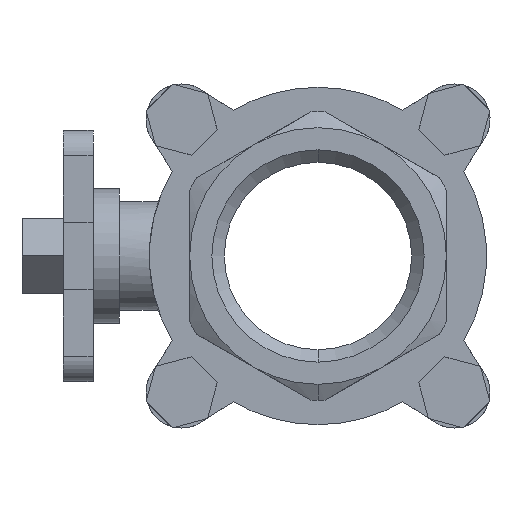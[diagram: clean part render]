
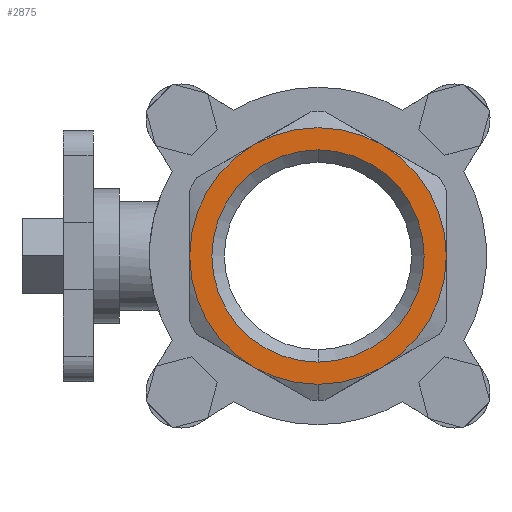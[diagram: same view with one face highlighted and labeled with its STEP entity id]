
A CAD part, left-side view. The second image highlights one B-rep face of the part: STEP entity #2875.
In plain terms, the highlighted planar face has unit normal (-1, 0, 0).
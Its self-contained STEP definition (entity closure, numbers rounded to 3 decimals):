
#1 = EDGE_LOOP ( 'NONE', ( #7816, #8437, #8639, #8641, #8653, #600, #471 ) ) ;
#3 = AXIS2_PLACEMENT_3D ( 'NONE', #7074, #3087, #7754 ) ;
#117 = DIRECTION ( 'NONE',  ( 0., 0., 1. ) ) ;
#135 = CIRCLE ( 'NONE', #5687, 34.25 ) ;
#471 = ORIENTED_EDGE ( 'NONE', *, *, #4531, .T. ) ;
#600 = ORIENTED_EDGE ( 'NONE', *, *, #8406, .T. ) ;
#675 = DIRECTION ( 'NONE',  ( -1., 0., 0. ) ) ;
#746 = AXIS2_PLACEMENT_3D ( 'NONE', #7809, #8476, #4480 ) ;
#955 = CIRCLE ( 'NONE', #1039, 34.25 ) ;
#1039 = AXIS2_PLACEMENT_3D ( 'NONE', #4856, #675, #5549 ) ;
#1052 = AXIS2_PLACEMENT_3D ( 'NONE', #7338, #3338, #8001 ) ;
#1214 = VERTEX_POINT ( 'NONE', #4510 ) ;
#1637 = CARTESIAN_POINT ( 'NONE',  ( -59., 0., 0. ) ) ;
#1911 = FACE_BOUND ( 'NONE', #7294, .T. ) ;
#1931 = EDGE_CURVE ( 'NONE', #8635, #8394, #4821, .T. ) ;
#2150 = AXIS2_PLACEMENT_3D ( 'NONE', #1637, #6429, #2378 ) ;
#2348 = CARTESIAN_POINT ( 'NONE',  ( -59., 0., 0. ) ) ;
#2378 = DIRECTION ( 'NONE',  ( 0., 0., 1. ) ) ;
#2431 = CARTESIAN_POINT ( 'NONE',  ( -59., 0., 0. ) ) ;
#2454 = VERTEX_POINT ( 'NONE', #6149 ) ;
#2566 = CIRCLE ( 'NONE', #3, 34.25 ) ;
#2615 = CARTESIAN_POINT ( 'NONE',  ( -59., 34.25, 0. ) ) ;
#2632 = AXIS2_PLACEMENT_3D ( 'NONE', #3137, #7798, #3784 ) ;
#2780 = VERTEX_POINT ( 'NONE', #6358 ) ;
#2875 = ADVANCED_FACE ( 'NONE', ( #1911, #7331 ), #3148, .F. ) ;
#2955 = CIRCLE ( 'NONE', #1052, 28.325 ) ;
#2975 = EDGE_CURVE ( 'NONE', #8569, #6113, #2955, .T. ) ;
#3025 = CIRCLE ( 'NONE', #3444, 34.25 ) ;
#3052 = CARTESIAN_POINT ( 'NONE',  ( -59., 0., 0. ) ) ;
#3080 = DIRECTION ( 'NONE',  ( 0., 0., 1. ) ) ;
#3087 = DIRECTION ( 'NONE',  ( -1., 0., 0. ) ) ;
#3137 = CARTESIAN_POINT ( 'NONE',  ( -59., 0., 0. ) ) ;
#3148 = PLANE ( 'NONE',  #746 ) ;
#3157 = DIRECTION ( 'NONE',  ( 0., 0., 1. ) ) ;
#3338 = DIRECTION ( 'NONE',  ( -1., 0., 0. ) ) ;
#3444 = AXIS2_PLACEMENT_3D ( 'NONE', #8379, #4385, #117 ) ;
#3696 = DIRECTION ( 'NONE',  ( 0., 0., 1. ) ) ;
#3764 = CARTESIAN_POINT ( 'NONE',  ( -59., 17.125, -29.661 ) ) ;
#3784 = DIRECTION ( 'NONE',  ( 0., 0., 1. ) ) ;
#3892 = AXIS2_PLACEMENT_3D ( 'NONE', #2348, #7066, #3080 ) ;
#4385 = DIRECTION ( 'NONE',  ( -1., 0., 0. ) ) ;
#4480 = DIRECTION ( 'NONE',  ( 0., 0., -1. ) ) ;
#4510 = CARTESIAN_POINT ( 'NONE',  ( -59., -34.25, 0. ) ) ;
#4531 = EDGE_CURVE ( 'NONE', #2780, #2454, #2566, .T. ) ;
#4662 = CIRCLE ( 'NONE', #2632, 34.25 ) ;
#4821 = CIRCLE ( 'NONE', #8152, 34.25 ) ;
#4856 = CARTESIAN_POINT ( 'NONE',  ( -59., 0., 0. ) ) ;
#4857 = CIRCLE ( 'NONE', #2150, 28.325 ) ;
#5275 = CARTESIAN_POINT ( 'NONE',  ( -59., 0., -28.325 ) ) ;
#5549 = DIRECTION ( 'NONE',  ( 0., 0., 1. ) ) ;
#5687 = AXIS2_PLACEMENT_3D ( 'NONE', #2431, #7145, #3157 ) ;
#5692 = ORIENTED_EDGE ( 'NONE', *, *, #2975, .F. ) ;
#6006 = VERTEX_POINT ( 'NONE', #8326 ) ;
#6113 = VERTEX_POINT ( 'NONE', #7732 ) ;
#6149 = CARTESIAN_POINT ( 'NONE',  ( -59., 17.125, 29.661 ) ) ;
#6358 = CARTESIAN_POINT ( 'NONE',  ( -59., -17.125, 29.661 ) ) ;
#6359 = CIRCLE ( 'NONE', #3892, 34.25 ) ;
#6429 = DIRECTION ( 'NONE',  ( -1., 0., 0. ) ) ;
#6496 = EDGE_CURVE ( 'NONE', #2454, #8635, #955, .T. ) ;
#6593 = ORIENTED_EDGE ( 'NONE', *, *, #8360, .F. ) ;
#6691 = EDGE_CURVE ( 'NONE', #6006, #7441, #3025, .T. ) ;
#6711 = EDGE_CURVE ( 'NONE', #7441, #1214, #6359, .T. ) ;
#6831 = EDGE_CURVE ( 'NONE', #8394, #6006, #135, .T. ) ;
#7066 = DIRECTION ( 'NONE',  ( -1., 0., 0. ) ) ;
#7074 = CARTESIAN_POINT ( 'NONE',  ( -59., 0., 0. ) ) ;
#7145 = DIRECTION ( 'NONE',  ( -1., 0., 0. ) ) ;
#7294 = EDGE_LOOP ( 'NONE', ( #6593, #5692 ) ) ;
#7331 = FACE_OUTER_BOUND ( 'NONE', #1, .T. ) ;
#7338 = CARTESIAN_POINT ( 'NONE',  ( -59., 0., 0. ) ) ;
#7441 = VERTEX_POINT ( 'NONE', #8297 ) ;
#7712 = DIRECTION ( 'NONE',  ( -1., 0., 0. ) ) ;
#7732 = CARTESIAN_POINT ( 'NONE',  ( -59., 0., 28.325 ) ) ;
#7754 = DIRECTION ( 'NONE',  ( 0., 0., 1. ) ) ;
#7798 = DIRECTION ( 'NONE',  ( -1., 0., 0. ) ) ;
#7809 = CARTESIAN_POINT ( 'NONE',  ( -59., 28.325, 0. ) ) ;
#7816 = ORIENTED_EDGE ( 'NONE', *, *, #6496, .T. ) ;
#8001 = DIRECTION ( 'NONE',  ( 0., 0., 1. ) ) ;
#8152 = AXIS2_PLACEMENT_3D ( 'NONE', #3052, #7712, #3696 ) ;
#8297 = CARTESIAN_POINT ( 'NONE',  ( -59., -17.125, -29.661 ) ) ;
#8326 = CARTESIAN_POINT ( 'NONE',  ( -59., 0., -34.25 ) ) ;
#8360 = EDGE_CURVE ( 'NONE', #6113, #8569, #4857, .T. ) ;
#8379 = CARTESIAN_POINT ( 'NONE',  ( -59., 0., 0. ) ) ;
#8394 = VERTEX_POINT ( 'NONE', #3764 ) ;
#8406 = EDGE_CURVE ( 'NONE', #1214, #2780, #4662, .T. ) ;
#8437 = ORIENTED_EDGE ( 'NONE', *, *, #1931, .T. ) ;
#8476 = DIRECTION ( 'NONE',  ( 1., 0., 0. ) ) ;
#8569 = VERTEX_POINT ( 'NONE', #5275 ) ;
#8635 = VERTEX_POINT ( 'NONE', #2615 ) ;
#8639 = ORIENTED_EDGE ( 'NONE', *, *, #6831, .T. ) ;
#8641 = ORIENTED_EDGE ( 'NONE', *, *, #6691, .T. ) ;
#8653 = ORIENTED_EDGE ( 'NONE', *, *, #6711, .T. ) ;
